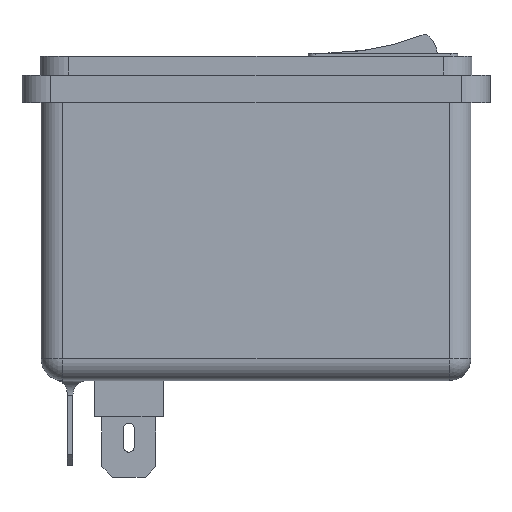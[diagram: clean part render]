
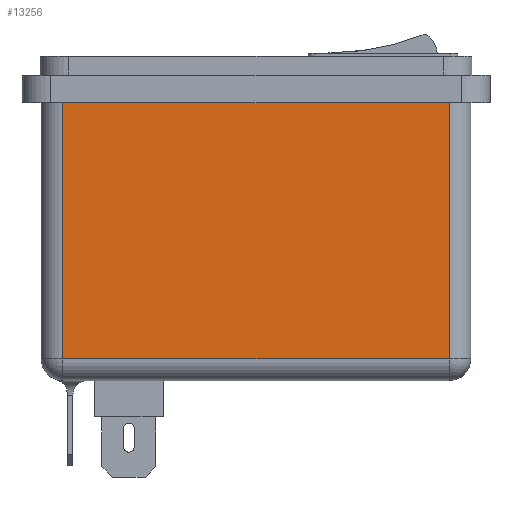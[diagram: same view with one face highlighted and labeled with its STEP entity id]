
A CAD part, left-side view. The second image highlights one B-rep face of the part: STEP entity #13256.
In plain terms, the highlighted planar face has unit normal (-1, 0, 0).
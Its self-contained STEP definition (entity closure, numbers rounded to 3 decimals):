
#415 = VERTEX_POINT ( 'NONE', #8609 ) ;
#567 = CARTESIAN_POINT ( 'NONE',  ( -14.25, -26.75, 38.5 ) ) ;
#740 = ORIENTED_EDGE ( 'NONE', *, *, #3189, .F. ) ;
#911 = CARTESIAN_POINT ( 'NONE',  ( -14.25, -29.75, 38.5 ) ) ;
#964 = VERTEX_POINT ( 'NONE', #3307 ) ;
#2272 = DIRECTION ( 'NONE',  ( 0., 0., -1. ) ) ;
#2337 = VECTOR ( 'NONE', #12512, 1000. ) ;
#2407 = DIRECTION ( 'NONE',  ( 0., -1., 0. ) ) ;
#2503 = EDGE_LOOP ( 'NONE', ( #6076, #14480, #740, #6286 ) ) ;
#2569 = VERTEX_POINT ( 'NONE', #567 ) ;
#3189 = EDGE_CURVE ( 'NONE', #6956, #2569, #10285, .T. ) ;
#3307 = CARTESIAN_POINT ( 'NONE',  ( -14.25, -26.75, 3. ) ) ;
#3512 = LINE ( 'NONE', #6693, #10315 ) ;
#4933 = PLANE ( 'NONE',  #11372 ) ;
#5395 = LINE ( 'NONE', #16044, #9036 ) ;
#5934 = LINE ( 'NONE', #15078, #2337 ) ;
#6076 = ORIENTED_EDGE ( 'NONE', *, *, #13741, .T. ) ;
#6286 = ORIENTED_EDGE ( 'NONE', *, *, #7045, .T. ) ;
#6693 = CARTESIAN_POINT ( 'NONE',  ( -14.25, -26.75, 38.5 ) ) ;
#6956 = VERTEX_POINT ( 'NONE', #16338 ) ;
#7045 = EDGE_CURVE ( 'NONE', #6956, #415, #5934, .T. ) ;
#8059 = DIRECTION ( 'NONE',  ( 0., 0., 1. ) ) ;
#8609 = CARTESIAN_POINT ( 'NONE',  ( -14.25, 26.75, 3. ) ) ;
#9036 = VECTOR ( 'NONE', #17397, 1000. ) ;
#10285 = LINE ( 'NONE', #13132, #13428 ) ;
#10315 = VECTOR ( 'NONE', #8059, 1000. ) ;
#10420 = DIRECTION ( 'NONE',  ( 1., 0., 0. ) ) ;
#11372 = AXIS2_PLACEMENT_3D ( 'NONE', #911, #10420, #2272 ) ;
#12355 = EDGE_CURVE ( 'NONE', #964, #2569, #3512, .T. ) ;
#12512 = DIRECTION ( 'NONE',  ( 0., 0., -1. ) ) ;
#13132 = CARTESIAN_POINT ( 'NONE',  ( -14.25, -29.75, 38.5 ) ) ;
#13256 = ADVANCED_FACE ( 'NONE', ( #13275 ), #4933, .F. ) ;
#13275 = FACE_OUTER_BOUND ( 'NONE', #2503, .T. ) ;
#13428 = VECTOR ( 'NONE', #2407, 1000. ) ;
#13741 = EDGE_CURVE ( 'NONE', #415, #964, #5395, .T. ) ;
#14480 = ORIENTED_EDGE ( 'NONE', *, *, #12355, .T. ) ;
#15078 = CARTESIAN_POINT ( 'NONE',  ( -14.25, 26.75, 38.5 ) ) ;
#16044 = CARTESIAN_POINT ( 'NONE',  ( -14.25, -29.75, 3. ) ) ;
#16338 = CARTESIAN_POINT ( 'NONE',  ( -14.25, 26.75, 38.5 ) ) ;
#17397 = DIRECTION ( 'NONE',  ( 0., -1., 0. ) ) ;
